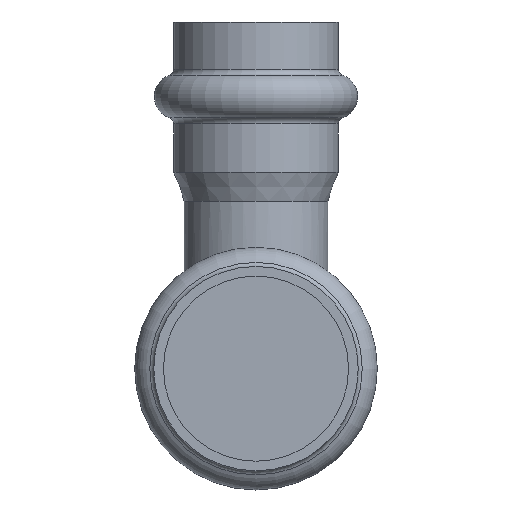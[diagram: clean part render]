
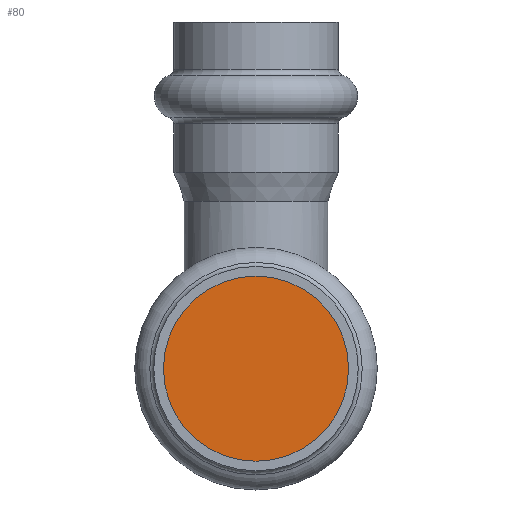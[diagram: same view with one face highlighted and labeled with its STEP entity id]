
A CAD part, front view. The second image highlights one B-rep face of the part: STEP entity #80.
In plain terms, the highlighted planar face has unit normal (0, -1, 0).
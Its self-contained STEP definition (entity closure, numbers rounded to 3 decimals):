
#80=ADVANCED_FACE('',(#325),#327,.T.);
#325=FACE_BOUND('',#326,.T.);
#326=EDGE_LOOP('',(#395));
#327=PLANE('',#328);
#328=AXIS2_PLACEMENT_3D('',#329,#330,#331);
#329=CARTESIAN_POINT('',(0.,-44.219,0.));
#330=DIRECTION('',(0.,-1.,0.));
#331=DIRECTION('',(0.,0.,-1.));
#395=ORIENTED_EDGE('',*,*,#424,.T.);
#424=EDGE_CURVE('',#480,#480,#481,.F.);
#480=VERTEX_POINT('',#865);
#481=CIRCLE('',#866,14.15);
#865=CARTESIAN_POINT('',(0.,-44.219,14.15));
#866=AXIS2_PLACEMENT_3D('',#867,#868,#869);
#867=CARTESIAN_POINT('',(0.,-44.219,0.));
#868=DIRECTION('',(0.,1.,0.));
#869=DIRECTION('',(0.,0.,1.));
